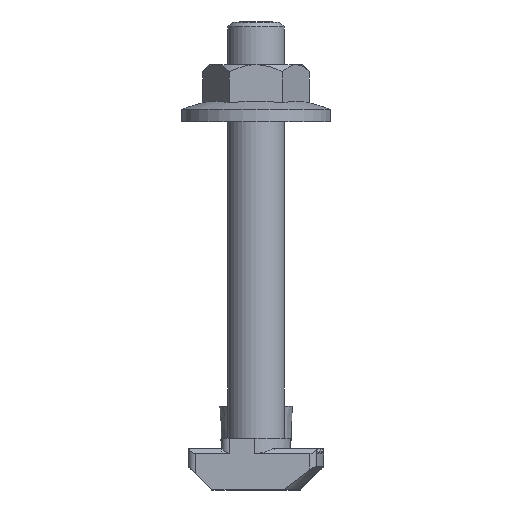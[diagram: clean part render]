
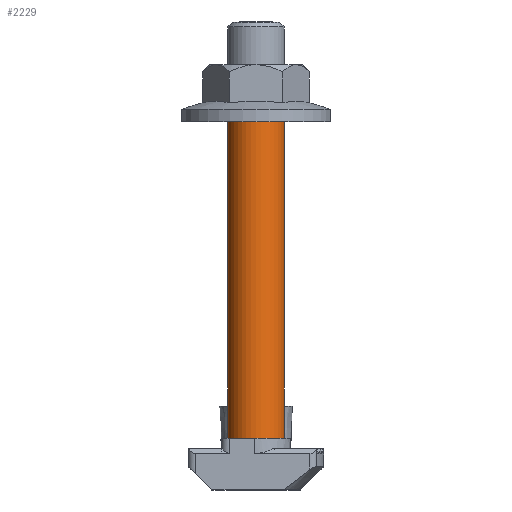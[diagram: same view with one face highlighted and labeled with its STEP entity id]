
A CAD part, left-side view. The second image highlights one B-rep face of the part: STEP entity #2229.
In plain terms, the highlighted cylindrical face has radius 4 mm (diameter 8 mm), a partial arc.
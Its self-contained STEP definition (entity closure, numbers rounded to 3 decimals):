
#588 = DIRECTION ( 'NONE',  ( 0., 0., -1. ) ) ;
#662 = VERTEX_POINT ( 'NONE', #1410 ) ;
#1410 = CARTESIAN_POINT ( 'NONE',  ( 0., 4., 51.8 ) ) ;
#1442 = CARTESIAN_POINT ( 'NONE',  ( 0., 0., 7.3 ) ) ;
#1452 = DIRECTION ( 'NONE',  ( 0., 0., 1. ) ) ;
#1491 = LINE ( 'NONE', #6274, #6143 ) ;
#1785 = EDGE_CURVE ( 'NONE', #4961, #5409, #6399, .T. ) ;
#1991 = ORIENTED_EDGE ( 'NONE', *, *, #2761, .T. ) ;
#2229 = ADVANCED_FACE ( 'NONE', ( #4886 ), #5059, .T. ) ;
#2233 = CARTESIAN_POINT ( 'NONE',  ( 0., -4., 7.3 ) ) ;
#2288 = DIRECTION ( 'NONE',  ( 0., 0., -1. ) ) ;
#2352 = CARTESIAN_POINT ( 'NONE',  ( 0., -4., 51.8 ) ) ;
#2457 = DIRECTION ( 'NONE',  ( 0., 0., -1. ) ) ;
#2464 = EDGE_CURVE ( 'NONE', #6607, #5409, #1491, .T. ) ;
#2663 = CARTESIAN_POINT ( 'NONE',  ( 0., 0., 51.8 ) ) ;
#2761 = EDGE_CURVE ( 'NONE', #6607, #662, #6150, .T. ) ;
#2862 = VECTOR ( 'NONE', #2457, 1000. ) ;
#3269 = DIRECTION ( 'NONE',  ( 0., 1., 0. ) ) ;
#3293 = AXIS2_PLACEMENT_3D ( 'NONE', #2663, #6636, #3269 ) ;
#3491 = ORIENTED_EDGE ( 'NONE', *, *, #2464, .F. ) ;
#3784 = ORIENTED_EDGE ( 'NONE', *, *, #5041, .T. ) ;
#3789 = ORIENTED_EDGE ( 'NONE', *, *, #1785, .T. ) ;
#3841 = AXIS2_PLACEMENT_3D ( 'NONE', #5355, #588, #6993 ) ;
#4576 = LINE ( 'NONE', #5348, #2862 ) ;
#4886 = FACE_OUTER_BOUND ( 'NONE', #6621, .T. ) ;
#4961 = VERTEX_POINT ( 'NONE', #6378 ) ;
#5041 = EDGE_CURVE ( 'NONE', #662, #4961, #4576, .T. ) ;
#5059 = CYLINDRICAL_SURFACE ( 'NONE', #3841, 4. ) ;
#5348 = CARTESIAN_POINT ( 'NONE',  ( 0., 4., 65.8 ) ) ;
#5355 = CARTESIAN_POINT ( 'NONE',  ( 0., 0., 65.8 ) ) ;
#5409 = VERTEX_POINT ( 'NONE', #2233 ) ;
#5901 = DIRECTION ( 'NONE',  ( 0., -1., 0. ) ) ;
#6143 = VECTOR ( 'NONE', #2288, 1000. ) ;
#6150 = CIRCLE ( 'NONE', #3293, 4. ) ;
#6274 = CARTESIAN_POINT ( 'NONE',  ( 0., -4., 65.8 ) ) ;
#6378 = CARTESIAN_POINT ( 'NONE',  ( 0., 4., 7.3 ) ) ;
#6399 = CIRCLE ( 'NONE', #6883, 4. ) ;
#6607 = VERTEX_POINT ( 'NONE', #2352 ) ;
#6621 = EDGE_LOOP ( 'NONE', ( #1991, #3784, #3789, #3491 ) ) ;
#6636 = DIRECTION ( 'NONE',  ( 0., 0., -1. ) ) ;
#6883 = AXIS2_PLACEMENT_3D ( 'NONE', #1442, #1452, #5901 ) ;
#6993 = DIRECTION ( 'NONE',  ( 0., -1., 0. ) ) ;
